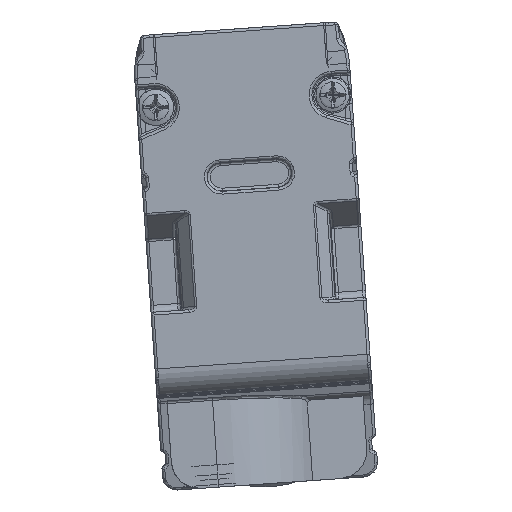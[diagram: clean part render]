
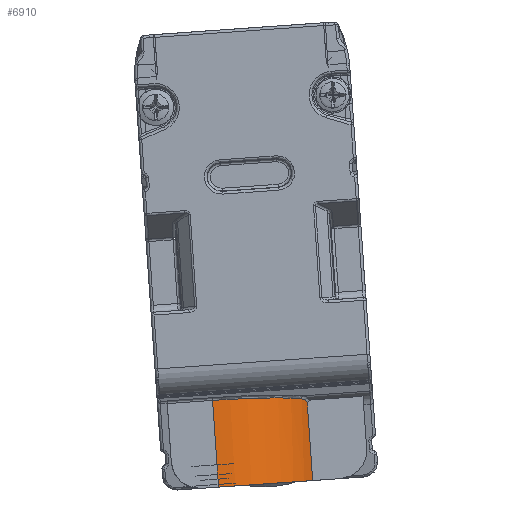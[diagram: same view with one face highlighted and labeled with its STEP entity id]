
A CAD part, front view. The second image highlights one B-rep face of the part: STEP entity #6910.
In plain terms, the highlighted cylindrical face has radius 7.5 mm (diameter 15 mm), a partial arc.
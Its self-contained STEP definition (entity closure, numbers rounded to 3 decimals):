
#270=ELLIPSE('',#23715,7.53,7.5);
#724=CYLINDRICAL_SURFACE('',#23717,7.5);
#1913=LINE('',#40177,#3568);
#1914=LINE('',#40190,#3569);
#3568=VECTOR('',#28799,1.);
#3569=VECTOR('',#28802,1.);
#5694=CIRCLE('',#23716,7.5);
#6910=ADVANCED_FACE('',(#8239),#724,.T.);
#8239=FACE_OUTER_BOUND('',#9346,.T.);
#9346=EDGE_LOOP('',(#13303,#13304,#13305,#13306,#13307));
#13303=ORIENTED_EDGE('',*,*,#20285,.T.);
#13304=ORIENTED_EDGE('',*,*,#20286,.T.);
#13305=ORIENTED_EDGE('',*,*,#20287,.T.);
#13306=ORIENTED_EDGE('',*,*,#20288,.T.);
#13307=ORIENTED_EDGE('',*,*,#20289,.F.);
#17112=VERTEX_POINT('',#40178);
#17113=VERTEX_POINT('',#40179);
#17114=VERTEX_POINT('',#40187);
#17115=VERTEX_POINT('',#40189);
#17116=VERTEX_POINT('',#40191);
#20285=EDGE_CURVE('',#17112,#17113,#1913,.T.);
#20286=EDGE_CURVE('',#17113,#17114,#21875,.T.);
#20287=EDGE_CURVE('',#17114,#17115,#270,.T.);
#20288=EDGE_CURVE('',#17115,#17116,#1914,.T.);
#20289=EDGE_CURVE('',#17112,#17116,#5694,.T.);
#21875=B_SPLINE_CURVE_WITH_KNOTS('',3,(#40180,#40181,#40182,#40183,#40184,
#40185,#40186),.UNSPECIFIED.,.F.,.F.,(4,3,4),(0.,0.485,1.),.UNSPECIFIED.);
#23715=AXIS2_PLACEMENT_3D('',#40188,#28800,#28801);
#23716=AXIS2_PLACEMENT_3D('',#40192,#28803,#28804);
#23717=AXIS2_PLACEMENT_3D('',#40193,#28805,#28806);
#28799=DIRECTION('',(-0.07,0.,0.998));
#28800=DIRECTION('',(0.069,-0.089,-0.994));
#28801=DIRECTION('',(0.006,0.996,-0.089));
#28802=DIRECTION('',(0.07,0.,-0.998));
#28803=DIRECTION('',(0.07,0.,-0.998));
#28804=DIRECTION('',(0.998,0.,0.07));
#28805=DIRECTION('',(0.07,0.,-0.998));
#28806=DIRECTION('',(0.,-1.,0.));
#40177=CARTESIAN_POINT('',(-40.701,-770.597,14.888));
#40178=CARTESIAN_POINT('',(-40.701,-770.597,14.888));
#40179=CARTESIAN_POINT('',(-41.088,-770.597,20.435));
#40180=CARTESIAN_POINT('',(-41.088,-770.597,20.435));
#40181=CARTESIAN_POINT('',(-41.139,-770.686,20.528));
#40182=CARTESIAN_POINT('',(-41.198,-770.793,20.603));
#40183=CARTESIAN_POINT('',(-41.263,-770.905,20.654));
#40184=CARTESIAN_POINT('',(-41.332,-771.024,20.708));
#40185=CARTESIAN_POINT('',(-41.408,-771.152,20.738));
#40186=CARTESIAN_POINT('',(-41.487,-771.278,20.743));
#40187=CARTESIAN_POINT('',(-41.487,-771.278,20.743));
#40188=CARTESIAN_POINT('',(-47.816,-767.318,19.944));
#40189=CARTESIAN_POINT('',(-47.863,-774.818,20.616));
#40190=CARTESIAN_POINT('',(-47.667,-774.818,17.815));
#40191=CARTESIAN_POINT('',(-47.43,-774.818,14.418));
#40192=CARTESIAN_POINT('',(-47.43,-767.318,14.418));
#40193=CARTESIAN_POINT('',(-52.434,-767.318,85.982));
